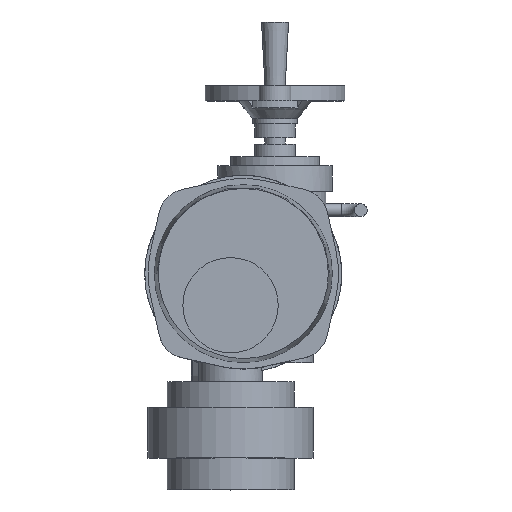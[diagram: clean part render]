
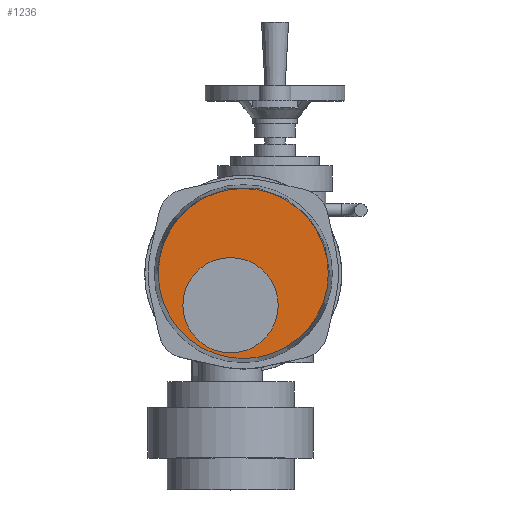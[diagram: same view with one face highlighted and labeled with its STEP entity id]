
A CAD part, top view. The second image highlights one B-rep face of the part: STEP entity #1236.
In plain terms, the highlighted planar face has unit normal (0, 0, 1).
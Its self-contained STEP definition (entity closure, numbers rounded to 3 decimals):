
#1236=ADVANCED_FACE('',(#2740,#2742),#2744,.T.);
#2740=FACE_BOUND('',#2741,.T.);
#2741=EDGE_LOOP('',(#3748));
#2742=FACE_BOUND('',#2743,.T.);
#2743=EDGE_LOOP('',(#3749));
#2744=PLANE('',#2745);
#2745=AXIS2_PLACEMENT_3D('',#2746,#2747,#2748);
#2746=CARTESIAN_POINT('',(15.,30.,400.));
#2747=DIRECTION('',(0.,0.,1.));
#2748=DIRECTION('',(-1.,0.,0.));
#3748=ORIENTED_EDGE('',*,*,#4242,.T.);
#3749=ORIENTED_EDGE('',*,*,#4284,.F.);
#4242=EDGE_CURVE('',#4851,#4851,#4852,.T.);
#4284=EDGE_CURVE('',#4913,#4913,#4914,.T.);
#4851=VERTEX_POINT('',#7560);
#4852=CIRCLE('',#7561,66.908);
#4913=VERTEX_POINT('',#7723);
#4914=CIRCLE('',#7724,37.5);
#7560=CARTESIAN_POINT('',(-51.908,30.,400.));
#7561=AXIS2_PLACEMENT_3D('',#7562,#7563,#7564);
#7562=CARTESIAN_POINT('',(15.,30.,400.));
#7563=DIRECTION('',(0.,0.,1.));
#7564=DIRECTION('',(-1.,0.,0.));
#7723=CARTESIAN_POINT('',(-32.5,5.,400.));
#7724=AXIS2_PLACEMENT_3D('',#7725,#7726,#7727);
#7725=CARTESIAN_POINT('',(5.,5.,400.));
#7726=DIRECTION('',(0.,0.,1.));
#7727=DIRECTION('',(-1.,0.,0.));
